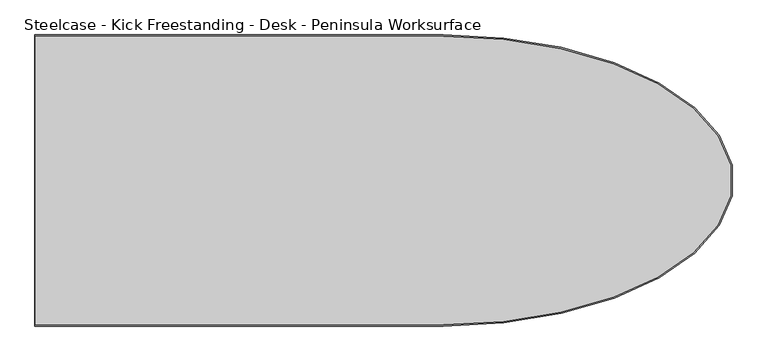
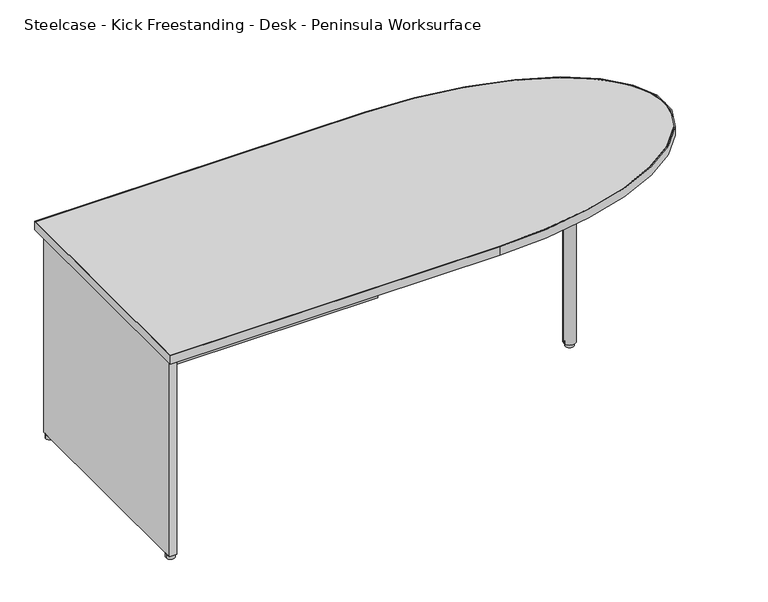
"""IFC4 building model written with IfcOpenShell, lengths in millimetres: furniture geometry, Steelcase - Kick Freestanding - Desk - Peninsula Worksurface : 30D x 72W - Half Panel."""

from ifc_helpers import new_model, si_unit, point, frame, frame_2d, origin, origin_with_axes, place, context, project, spatial, polyline, circle_curve, ellipse_curve, trimmed, segment, composite_curve, outline, extrude, source, transform, mapped, element, save
from ifc_brep_helpers import plane_surface, extruded_surface, advanced_brep


def steelcase_kick_freestanding_desk_peninsula_worksurface_a5f6fa90(model_context):
    return source(origin(), model_context, "Body", "SolidModel", [
        extrude(outline(polyline([(3680.0298423, -802.0909301), (3805.7534455, -927.8145152), (3680.0298786, -1053.5381002), (3554.3062754, -927.8145152), (3680.0298423, -802.0909301)])), frame((0.0, 0.0, 678.688), z_axis=(0.0, 0.0, 1.0), x_axis=(1.0, 0.0, 0.0)), (0.0, 0.0, 1.0), 16.256),
        advanced_brep(
        [(2163.8594425, -1308.8145152, 723.9), (3233.0978111, -1308.8145152, 723.9), (3233.0978111, -546.8145152, 723.9), (2163.8594425, -546.8145152, 723.9), (3233.0978111, -549.7863152, 723.9), (3233.0978111, -1305.8427489, 723.9), (2164.8500425, -1305.8427489, 723.9), (2164.8500425, -549.7863152, 723.9), (2163.8594425, -1308.8145152, 694.944), (2163.8594425, -546.8145152, 694.944), (3233.0978111, -546.8145152, 694.944), (3233.0978111, -1308.8145152, 694.944), (3233.0978111, -549.7863152, 694.944), (2164.8500425, -549.7863152, 694.944), (2164.8500425, -1305.8427489, 694.944), (3233.0978111, -1305.8427489, 694.944)],
        [
            (0, 1),
            (1, 2, ellipse_curve(frame((3233.0978111, -927.8145152, 723.9), z_axis=(0.0, 0.0, 1.0), x_axis=(-1.0, 0.0, 0.0)), 759.727071, 381.0)),
            (2, 3),
            (3, 0),
            (4, 5, ellipse_curve(frame((3233.0978111, -927.8145321, 723.9), z_axis=(0.0, 0.0, -1.0), x_axis=(1.0, 0.0, 0.0)), 755.65, 378.0282168)),
            (5, 6),
            (6, 7),
            (7, 4),
            (8, 9),
            (9, 10),
            (10, 11, ellipse_curve(frame((3233.0978111, -927.8145152, 694.944), z_axis=(0.0, 0.0, -1.0), x_axis=(0.0, 1.0, 0.0)), 381.0, 759.727071)),
            (11, 8),
            (12, 13),
            (13, 14),
            (14, 15),
            (15, 12, ellipse_curve(frame((3233.0978111, -927.8145321, 694.944), z_axis=(0.0, 0.0, 1.0), x_axis=(1.0, 0.0, 0.0)), 755.65, 378.0282168)),
            (0, 8),
            (11, 1),
            (10, 2),
            (9, 3),
            (4, 12),
            (15, 5),
            (14, 6),
            (13, 7),
        ],
        [
            plane_surface(frame((2163.8594425, -1308.8145152, 723.9), z_axis=(0.0, 0.0, 1.0), x_axis=(1.0, 0.0, 0.0))),
            plane_surface(frame((2163.8594425, -1308.8145152, 694.944), z_axis=(0.0, 0.0, -1.0), x_axis=(-1.0, 0.0, 0.0))),
            plane_surface(frame((2163.8594425, -1308.8145152, 723.9), z_axis=(0.0, -1.0, 0.0), x_axis=(0.0, 0.0, -1.0))),
            extruded_surface(trimmed(ellipse_curve(frame((3233.0978111, -927.8145152, 665.988), z_axis=(0.0, 0.0, 1.0), x_axis=(0.0, 1.0, 0.0)), 381.0, 759.727071), [point((3233.0978111, -1308.8145152, 665.988))], [point((3233.0978111, -546.8145152, 665.988))], True, "CARTESIAN"), (0.0, 0.0, 28.955999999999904), 28.955999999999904),
            plane_surface(frame((3233.0978111, -546.8145152, 723.9), z_axis=(0.0, 1.0, 0.0), x_axis=(0.0, 0.0, -1.0))),
            plane_surface(frame((2163.8594425, -546.8145152, 723.9), z_axis=(-1.0, 0.0, 0.0), x_axis=(0.0, 0.0, -1.0))),
            extruded_surface(trimmed(ellipse_curve(frame((3233.0978111, -927.8145321, -28.956), z_axis=(0.0, 0.0, -1.0), x_axis=(0.0, 1.0, 0.0)), 378.0282168, 755.65), [point((3233.0978111, -549.7863152, -28.956))], [point((3233.0978111, -1305.8427489, -28.956))], True, "CARTESIAN"), (0.0, 0.0, 28.956), 28.956),
            plane_surface(frame((3233.0978111, -1305.8427489, 723.9), z_axis=(0.0, 1.0, 0.0), x_axis=(0.0, 0.0, -1.0))),
            plane_surface(frame((2164.8500425, -1305.8427489, 723.9), z_axis=(1.0, 0.0, 0.0), x_axis=(0.0, 0.0, -1.0))),
            plane_surface(frame((2164.8500425, -549.7863152, 723.9), z_axis=(0.0, -1.0, 0.0), x_axis=(0.0, 0.0, -1.0))),
        ],
        [
            (0, [[1, 2, 3, 4], [5, 6, 7, 8]]),
            (1, [[9, 10, 11, 12], [13, 14, 15, 16]]),
            (2, [[-1, 17, -12, 18]]),
            (3, [[-2, -18, -11, 19]]),
            (4, [[-3, -19, -10, 20]]),
            (5, [[-4, -20, -9, -17]]),
            (6, [[-5, 21, -16, 22]]),
            (7, [[-6, -22, -15, 23]]),
            (8, [[-7, -23, -14, 24]]),
            (9, [[-8, -24, -13, -21]]),
        ],
    ),
        advanced_brep(
        [(3233.0978111, -549.7863152, 723.9), (2164.8500425, -549.7863152, 723.9), (2164.8500425, -1305.8427489, 723.9), (3233.0978111, -1305.8427489, 723.9), (3233.0978111, -549.7863152, 694.944), (3233.0978111, -1305.8427489, 694.944), (2164.8500425, -1305.8427489, 694.944), (2164.8500425, -549.7863152, 694.944)],
        [
            (0, 1),
            (1, 2),
            (2, 3),
            (3, 0, ellipse_curve(frame((3233.0978111, -927.8145321, 723.9), z_axis=(0.0, 0.0, 1.0), x_axis=(-1.0, 0.0, 0.0)), 755.65, 378.0282168)),
            (4, 5, ellipse_curve(frame((3233.0978111, -927.8145321, 694.944), z_axis=(0.0, 0.0, -1.0), x_axis=(0.0, 1.0, 0.0)), 378.0282168, 755.65)),
            (5, 6),
            (6, 7),
            (7, 4),
            (0, 4),
            (7, 1),
            (6, 2),
            (5, 3),
        ],
        [
            plane_surface(frame((2164.8500425, -549.7863152, 723.9), z_axis=(0.0, 0.0, 1.0), x_axis=(-1.0, 0.0, 0.0))),
            plane_surface(frame((2164.8500425, -549.7863152, 694.944), z_axis=(0.0, 0.0, -1.0), x_axis=(1.0, 0.0, 0.0))),
            plane_surface(frame((3233.0978111, -549.7863152, 723.9), z_axis=(0.0, 1.0, 0.0), x_axis=(0.0, 0.0, -1.0))),
            plane_surface(frame((2164.8500425, -549.7863152, 723.9), z_axis=(-1.0, 0.0, 0.0), x_axis=(0.0, 0.0, -1.0))),
            plane_surface(frame((2164.8500425, -1305.8427489, 723.9), z_axis=(0.0, -1.0, 0.0), x_axis=(0.0, 0.0, -1.0))),
            extruded_surface(trimmed(ellipse_curve(frame((3233.0978111, -927.8145321, 665.988), z_axis=(0.0, 0.0, 1.0), x_axis=(0.0, 1.0, 0.0)), 378.0282168, 755.65), [point((3233.0978111, -1305.8427489, 665.988))], [point((3233.0978111, -549.7863152, 665.988))], True, "CARTESIAN"), (0.0, 0.0, 28.955999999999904), 28.955999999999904),
        ],
        [
            (0, [[1, 2, 3, 4]]),
            (1, [[5, 6, 7, 8]]),
            (2, [[-1, 9, -8, 10]]),
            (3, [[-2, -10, -7, 11]]),
            (4, [[-3, -11, -6, 12]]),
            (5, [[-4, -12, -5, -9]]),
        ],
    ),
        extrude(outline(polyline([(2200.9434425, -940.5145152), (2200.9434425, -915.1145152), (3050.5734425, -915.1145152), (3050.5734425, -940.5145152), (2200.9434425, -940.5145152)])), frame((0.0, 0.0, 390.144), z_axis=(0.0, 0.0, 1.0), x_axis=(1.0, 0.0, 0.0)), (0.0, 0.0, 1.0), 304.8),
        extrude(outline(composite_curve([segment(trimmed(circle_curve(frame_2d((3679.9854425, -927.8063303)), 13.97), [point((3666.0154425, -927.8063303))], [point((3693.9554425, -927.8063303))], False, "CARTESIAN"), True, "CONTINUOUS"), segment(trimmed(circle_curve(frame_2d((3679.9854425, -927.8063303)), 13.97), [point((3693.9554425, -927.8063303))], [point((3666.0154425, -927.8063303))], False, "CARTESIAN"), True, "CONTINUOUS")], self_intersect=False)), origin_with_axes(), (0.0, 0.0, 1.0), 12.5222),
        extrude(outline(composite_curve([segment(trimmed(circle_curve(frame_2d((3679.9854425, -927.7998125)), 19.05), [point((3660.9354425, -927.7998125))], [point((3699.0354425, -927.7998125))], False, "CARTESIAN"), True, "CONTINUOUS"), segment(trimmed(circle_curve(frame_2d((3679.9854425, -927.7998125)), 19.05), [point((3699.0354425, -927.7998125))], [point((3660.9354425, -927.7998125))], False, "CARTESIAN"), True, "CONTINUOUS")], self_intersect=False)), frame((0.0, 0.0, 12.5222), z_axis=(0.0, 0.0, 1.0), x_axis=(1.0, 0.0, 0.0)), (0.0, 0.0, 1.0), 682.4218),
        extrude(outline(composite_curve([segment(trimmed(circle_curve(frame_2d((2188.6643434, -589.5500339)), 13.97), [point((2174.6943434, -589.5500339))], [point((2202.6343434, -589.5500339))], False, "CARTESIAN"), True, "CONTINUOUS"), segment(trimmed(circle_curve(frame_2d((2188.6643434, -589.5500339)), 13.97), [point((2202.6343434, -589.5500339))], [point((2174.6943434, -589.5500339))], False, "CARTESIAN"), True, "CONTINUOUS")], self_intersect=False)), origin_with_axes(), (0.0, 0.0, 1.0), 12.5222),
        extrude(outline(composite_curve([segment(trimmed(circle_curve(frame_2d((2188.6465467, -1265.8952821)), 13.97), [point((2174.6765467, -1265.8952821))], [point((2202.6165467, -1265.8952821))], False, "CARTESIAN"), True, "CONTINUOUS"), segment(trimmed(circle_curve(frame_2d((2188.6465467, -1265.8952821)), 13.97), [point((2202.6165467, -1265.8952821))], [point((2174.6765467, -1265.8952821))], False, "CARTESIAN"), True, "CONTINUOUS")], self_intersect=False)), origin_with_axes(), (0.0, 0.0, 1.0), 12.5222),
        extrude(outline(polyline([(2200.9434425, -574.3735161), (2200.9434425, -688.2671183), (2179.9630426, -688.2671183), (2179.9630426, -787.936716), (2200.9434425, -787.936716), (2200.9434425, -1067.6923144), (2179.9630426, -1067.6923144), (2179.9630426, -1167.3618848), (2200.9434425, -1167.3618848), (2200.9434425, -1281.2555142), (2176.5594429, -1281.2555142), (2176.5594429, -574.3735161), (2200.9434425, -574.3735161)])), frame((0.0, 0.0, 12.5222), z_axis=(0.0, 0.0, 1.0), x_axis=(1.0, 0.0, 0.0)), (0.0, 0.0, 1.0), 682.4218),
    ])


if __name__ == "__main__":
    model = new_model("IFC4")
    model_context = context("Model", 3, world=origin())
    ifc_project = project(units=[si_unit("LENGTHUNIT", "METRE", prefix="MILLI")], contexts=[model_context])
    site = spatial("IfcSite", under=ifc_project)
    building = spatial("IfcBuilding", under=site)
    placement = place(None, origin())
    steelcase_kick_freestanding_desk_peninsula_worksurface_shape = steelcase_kick_freestanding_desk_peninsula_worksurface_a5f6fa90(model_context)
    element("IfcFurniture", 1, ObjectType="Steelcase - Kick Freestanding - Desk - Peninsula Worksurface : 30D x 72W - Half Panel", at=placement, inside=building, context=model_context, shape_type="MappedRepresentation", body=[
        mapped(steelcase_kick_freestanding_desk_peninsula_worksurface_shape, transform((0.0, 0.0, 0.0), x_axis=(1.0, 0.0, 0.0), y_axis=(0.0, 1.0, 0.0), z_axis=(0.0, 0.0, 1.0))),
    ])
    save(model, "model.ifc")
